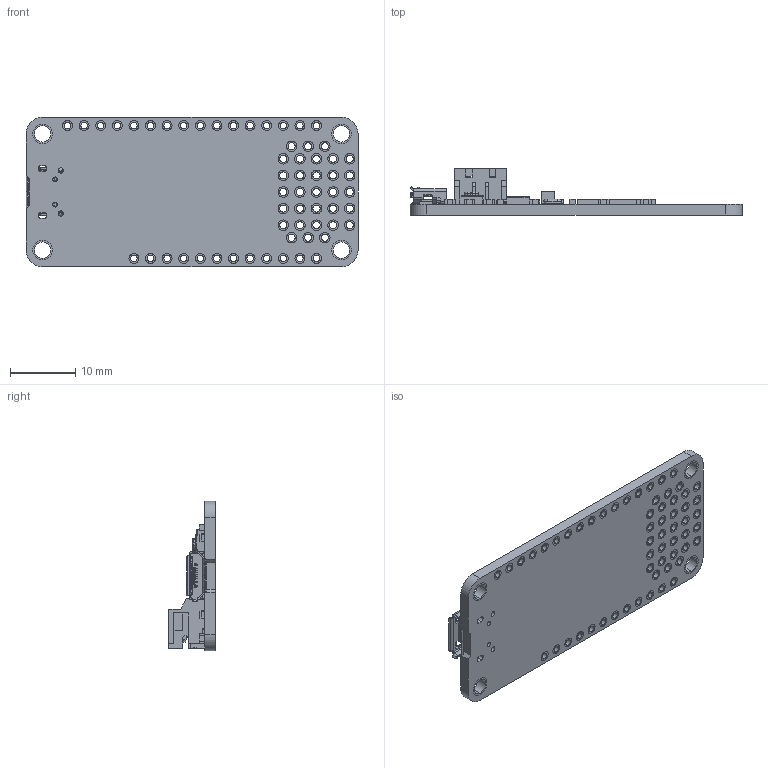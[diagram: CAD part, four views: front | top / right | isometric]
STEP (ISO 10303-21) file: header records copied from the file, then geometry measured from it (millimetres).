
FILE_DESCRIPTION (( 'STEP AP214' ), '1' );
FILE_NAME ('3857.STEP', '2024-09-11T21:36:16', ( '' ), ( '' ), 'SwSTEP 2.0', 'SolidWorks 2021', '' );
FILE_SCHEMA (( 'AUTOMOTIVE_DESIGN' ));
Length unit declared in the file: millimetre
Products named in the file (1): 3857
Bounding box: 50.8 x 7.11 x 22.86 mm (x, y, z)
Volume: 2101.5 mm3; surface area: 5360.6 mm2
Topology: 191 solids, 191 shells, 2367 faces, 5810 edges, 3815 vertices
Faces by surface type: plane 1540, cylinder 774, bspline 24, torus 21, cone 8
Entity records: 73984 total; most frequent: CARTESIAN_POINT 16243, ORIENTED_EDGE 11616, DIRECTION 10816, EDGE_CURVE 5808, LINE 3820, VECTOR 3820, VERTEX_POINT 3815, AXIS2_PLACEMENT_3D 3498
